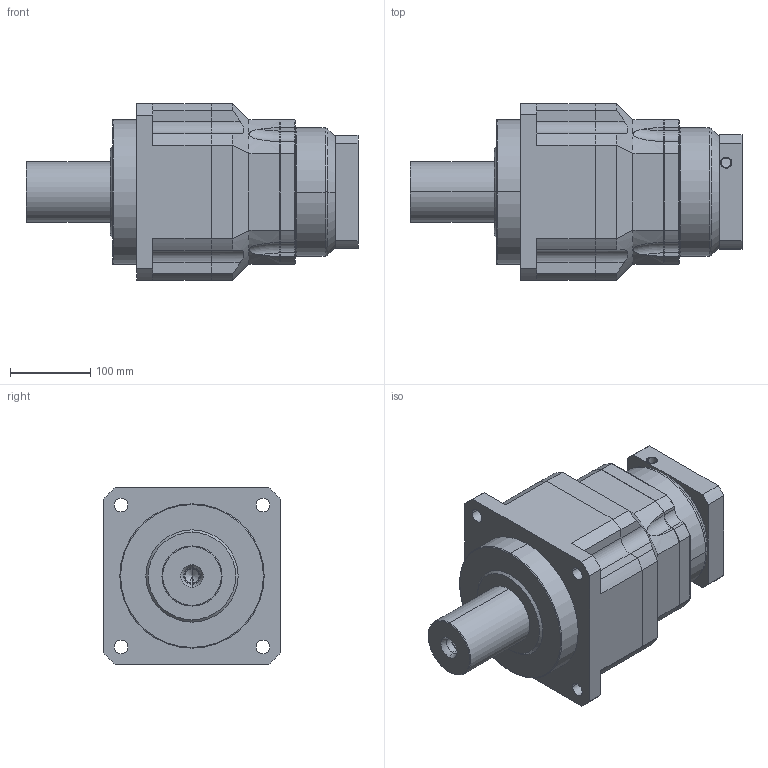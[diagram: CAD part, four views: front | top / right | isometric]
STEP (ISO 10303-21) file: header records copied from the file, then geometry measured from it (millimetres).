
FILE_DESCRIPTION((''),'2;1');
FILE_NAME('AB2202-P0403600102_ASM','2023-03-15T',('Administrator'),(''),'PRO/ENGINEER BY PARAMETRIC TECHNOLOGY CORPORATION, 2015240','PRO/ENGINEER BY PARAMETRIC TECHNOLOGY CORPORATION, 2015240','');
FILE_SCHEMA(('CONFIG_CONTROL_DESIGN'));
Length unit declared in the file: millimetre
Products named in the file (7): P1301600001_D; AB2202-1; AB220; AB-INPUTSHAFT-6; AB2202_ASM; P0403600102-0008; AB2202-P0403600102_ASM
Assembly tree (6 placements, depth 3):
  AB2202-P0403600102_ASM
    AB2202_ASM
      P1301600001_D
      AB2202-1
      AB220
      AB-INPUTSHAFT-6
    P0403600102-0008
Bounding box: 414 x 220 x 220 mm (x, y, z)
Volume: 9949534.6 mm3; surface area: 562925.2 mm2
Topology: 5 solids, 11 shells, 324 faces, 813 edges, 509 vertices
Faces by surface type: cylinder 149, plane 101, cone 42, torus 28, bspline 4
Entity records: 10336 total; most frequent: CARTESIAN_POINT 2205, DIRECTION 1803, ORIENTED_EDGE 1580, EDGE_CURVE 803, AXIS2_PLACEMENT_3D 722, VERTEX_POINT 509, CIRCLE 381, EDGE_LOOP 372
